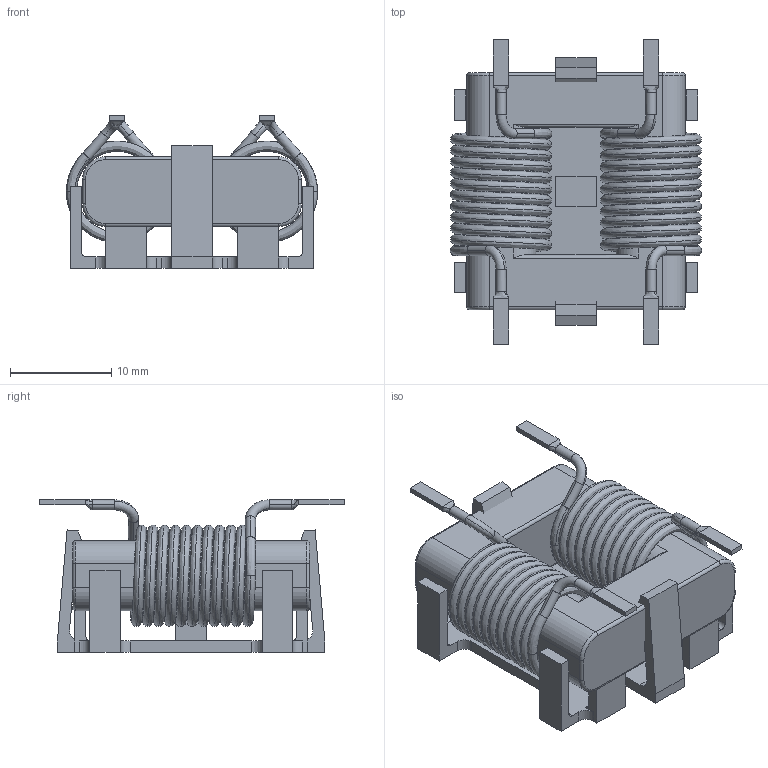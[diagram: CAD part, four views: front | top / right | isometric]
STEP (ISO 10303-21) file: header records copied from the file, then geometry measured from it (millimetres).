
FILE_DESCRIPTION (( 'STEP AP214' ), '1' );
FILE_NAME ('成品线圈3D图-SMD-0766-281.STEP', '2025-08-22T09:04:36', ( '微软用户' ), ( '微软中国' ), 'SwSTEP 2.0', 'SolidWorks 2018', '' );
FILE_SCHEMA (( 'AUTOMOTIVE_DESIGN' ));
Length unit declared in the file: millimetre
Products named in the file (3): 线圈3D图-SMD-0766-281; 嘎殤; 成品线圈3D图-SMD-0766-281
Assembly tree (2 placements, depth 2):
  成品线圈3D图-SMD-0766-281
    线圈3D图-SMD-0766-281
    嘎殤
Bounding box: 24.8 x 30.05 x 15.03 mm (x, y, z)
Volume: 3884.3 mm3; surface area: 5244.4 mm2
Topology: 8 solids, 8 shells, 213 faces, 556 edges, 360 vertices
Faces by surface type: plane 107, cylinder 62, bspline 28, torus 16
Entity records: 13707 total; most frequent: CARTESIAN_POINT 6056, ORIENTED_EDGE 1112, DIRECTION 1024, EDGE_CURVE 556, VERTEX_POINT 360, AXIS2_PLACEMENT_3D 346, VECTOR 332, LINE 332
